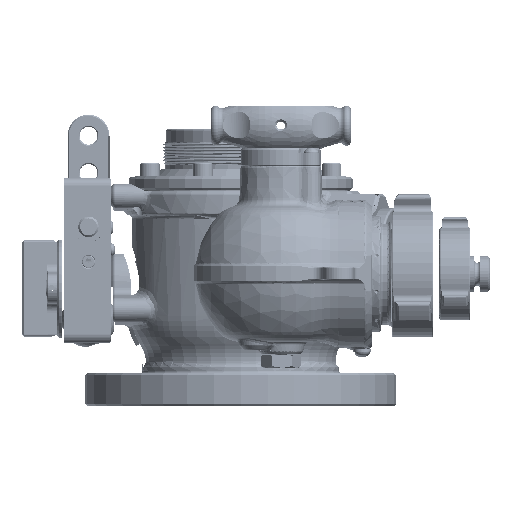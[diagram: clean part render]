
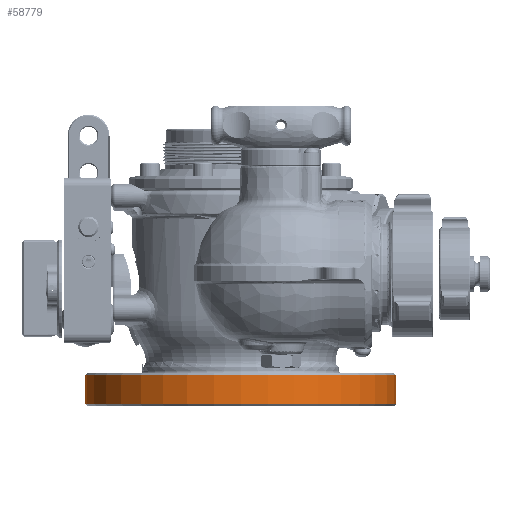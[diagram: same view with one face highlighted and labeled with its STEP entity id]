
A CAD part, top view. The second image highlights one B-rep face of the part: STEP entity #58779.
In plain terms, the highlighted cylindrical face has radius 113.03 mm (diameter 226.06 mm), a partial arc.
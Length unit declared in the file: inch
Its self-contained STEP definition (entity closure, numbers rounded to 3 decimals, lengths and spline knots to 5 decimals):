
#278 = CARTESIAN_POINT ( 'NONE',  ( 4.45, -2.4975, 0. ) ) ;
#3496 = EDGE_CURVE ( 'NONE', #144559, #236262, #166573, .T. ) ;
#6322 = CIRCLE ( 'NONE', #65590, 4.45 ) ;
#11794 = DIRECTION ( 'NONE',  ( 0., 1., 0. ) ) ;
#14371 = CARTESIAN_POINT ( 'NONE',  ( -4.45, -2.4975, 0. ) ) ;
#14416 = ORIENTED_EDGE ( 'NONE', *, *, #3496, .T. ) ;
#29658 = VERTEX_POINT ( 'NONE', #180905 ) ;
#35510 = CIRCLE ( 'NONE', #118028, 4.45 ) ;
#40479 = DIRECTION ( 'NONE',  ( 0., 1., 0. ) ) ;
#48879 = DIRECTION ( 'NONE',  ( 0., 1., 0. ) ) ;
#56276 = ORIENTED_EDGE ( 'NONE', *, *, #102349, .T. ) ;
#58779 = ADVANCED_FACE ( 'NONE', ( #245920 ), #239739, .T. ) ;
#61939 = AXIS2_PLACEMENT_3D ( 'NONE', #83282, #40479, #211250 ) ;
#62645 = EDGE_LOOP ( 'NONE', ( #56276, #14416, #111878, #130535 ) ) ;
#65590 = AXIS2_PLACEMENT_3D ( 'NONE', #86981, #48879, #237990 ) ;
#74234 = DIRECTION ( 'NONE',  ( 0., 1., 0. ) ) ;
#79352 = CARTESIAN_POINT ( 'NONE',  ( -4.45, 0., 0. ) ) ;
#80190 = DIRECTION ( 'NONE',  ( 0., 1., 0. ) ) ;
#83282 = CARTESIAN_POINT ( 'NONE',  ( 0., 0., 0. ) ) ;
#86981 = CARTESIAN_POINT ( 'NONE',  ( 0., -2.4975, 0. ) ) ;
#94044 = DIRECTION ( 'NONE',  ( -1., 0., 0. ) ) ;
#102349 = EDGE_CURVE ( 'NONE', #29658, #144559, #35510, .T. ) ;
#111878 = ORIENTED_EDGE ( 'NONE', *, *, #222568, .F. ) ;
#113935 = EDGE_CURVE ( 'NONE', #29658, #189488, #141873, .T. ) ;
#118028 = AXIS2_PLACEMENT_3D ( 'NONE', #207691, #74234, #94044 ) ;
#130535 = ORIENTED_EDGE ( 'NONE', *, *, #113935, .F. ) ;
#141873 = LINE ( 'NONE', #79352, #162623 ) ;
#144559 = VERTEX_POINT ( 'NONE', #192248 ) ;
#162623 = VECTOR ( 'NONE', #80190, 39.37008 ) ;
#166573 = LINE ( 'NONE', #242202, #178504 ) ;
#178504 = VECTOR ( 'NONE', #11794, 39.37008 ) ;
#180905 = CARTESIAN_POINT ( 'NONE',  ( -4.45, -3.3125, 0. ) ) ;
#189488 = VERTEX_POINT ( 'NONE', #14371 ) ;
#192248 = CARTESIAN_POINT ( 'NONE',  ( 4.45, -3.3125, 0. ) ) ;
#207691 = CARTESIAN_POINT ( 'NONE',  ( 0., -3.3125, 0. ) ) ;
#211250 = DIRECTION ( 'NONE',  ( -1., 0., 0. ) ) ;
#222568 = EDGE_CURVE ( 'NONE', #189488, #236262, #6322, .T. ) ;
#236262 = VERTEX_POINT ( 'NONE', #278 ) ;
#237990 = DIRECTION ( 'NONE',  ( -1., 0., 0. ) ) ;
#239739 = CYLINDRICAL_SURFACE ( 'NONE', #61939, 4.45 ) ;
#242202 = CARTESIAN_POINT ( 'NONE',  ( 4.45, 0., 0. ) ) ;
#245920 = FACE_OUTER_BOUND ( 'NONE', #62645, .T. ) ;
